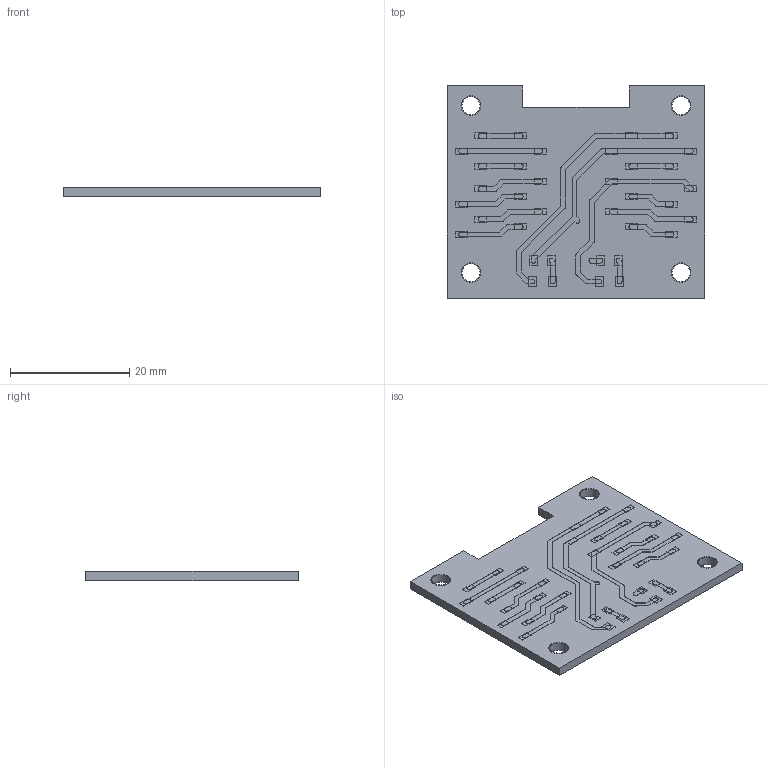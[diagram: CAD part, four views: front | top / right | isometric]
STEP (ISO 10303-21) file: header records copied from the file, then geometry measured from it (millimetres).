
FILE_DESCRIPTION(('KiCad electronic assembly'),'2;1');
FILE_NAME('week8-assignment-3D.step','2026-03-13T14:06:33',('Pcbnew'),( 'Kicad'),'Open CASCADE STEP processor 7.9','KiCad to STEP converter' ,'Unknown');
FILE_SCHEMA(('AUTOMOTIVE_DESIGN { 1 0 10303 214 1 1 1 1 }'));
Length unit declared in the file: millimetre
Products named in the file (4): week8-assignment-3D 1; week8-assignment-3D_copper; week8-assignment-3D_pad; week8-assignment-3D_PCB
Assembly tree (3 placements, depth 2):
  week8-assignment-3D 1
    week8-assignment-3D_copper
    week8-assignment-3D_pad
    week8-assignment-3D_PCB
Bounding box: 43.18 x 35.56 x 1.59 mm (x, y, z)
Volume: 2189.1 mm3; surface area: 3901 mm2
Topology: 66 solids, 66 shells, 486 faces, 1062 edges, 708 vertices
Faces by surface type: plane 391, cylinder 95
Full cylindrical faces by diameter (mm): 3.05 x12, 3.1 x8, 3.3 x8
Entity records: 13661 total; most frequent: CARTESIAN_POINT 2260, DIRECTION 2232, ORIENTED_EDGE 2124, EDGE_CURVE 1062, LINE 872, VECTOR 872, VERTEX_POINT 708, AXIS2_PLACEMENT_3D 680
